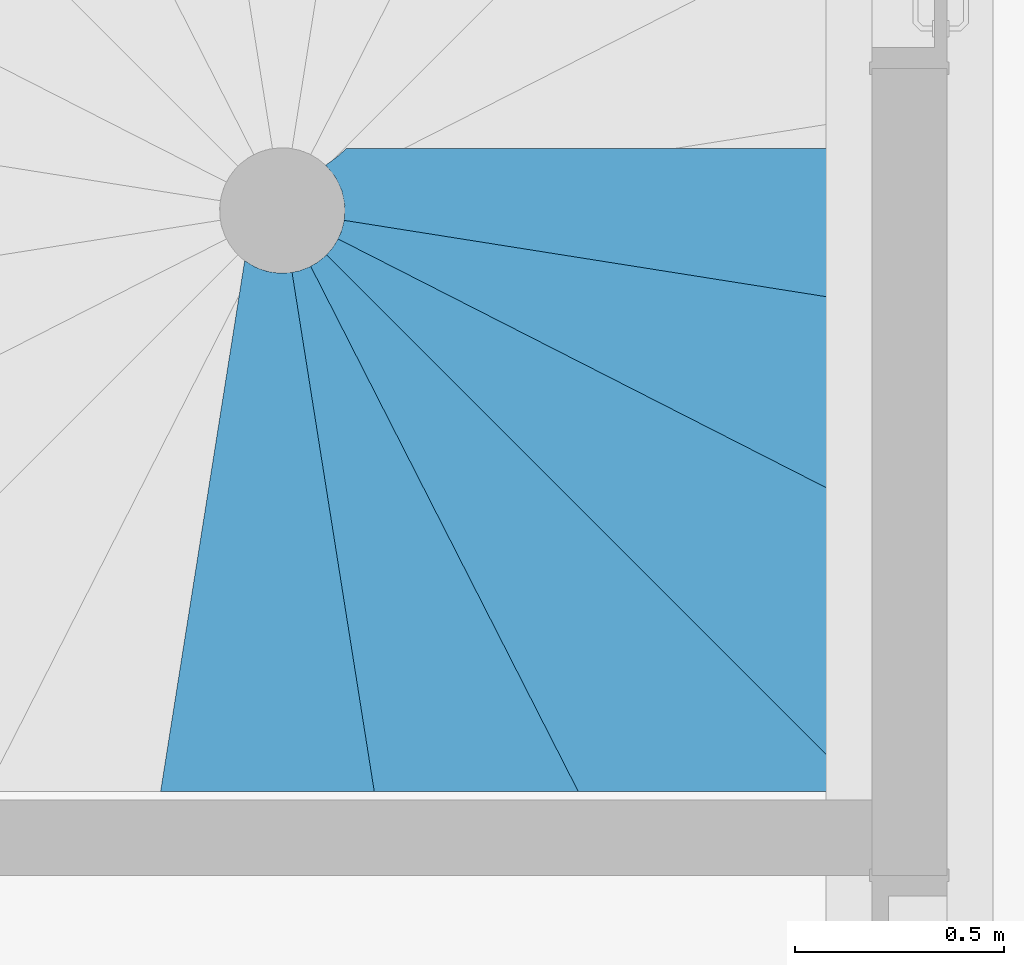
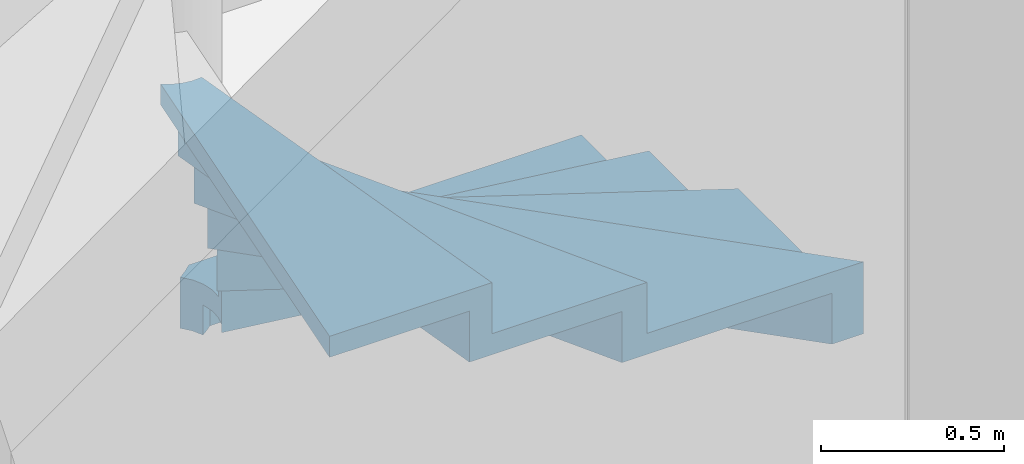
# One storey, part 18 of 29: 1 stair, 1 element without a shape of its own.
"""IFC2X3 building model written with IfcOpenShell, lengths in centimetres."""

from ifc_helpers import new_model, entity, si_unit, converted_unit, derived_unit, direction, frame, origin, place, context, subcontext, project, spatial, faceted_brep, material, element, aggregate, save


model = new_model("IFC2X3")

# Units and contexts
model_context = context("Model", 3, precision=0.001, world=origin(), true_north=direction((6.12303176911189e-17, 1.0)))
body_context = subcontext(model_context, "Body", "Model", "MODEL_VIEW")
ifc_project = project(units=[si_unit("LENGTHUNIT", "METRE", prefix="CENTI"), si_unit("AREAUNIT", "SQUARE_METRE"), si_unit("VOLUMEUNIT", "CUBIC_METRE"), converted_unit("PLANEANGLEUNIT", "DEGREE", entity("IfcRatioMeasure", 0.0174532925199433), si_unit("PLANEANGLEUNIT", "RADIAN"), dimensions=[0, 0, 0, 0, 0, 0, 0]), si_unit("MASSUNIT", "GRAM", prefix="KILO"), derived_unit("MASSDENSITYUNIT", [(si_unit("MASSUNIT", "GRAM", prefix="KILO"), 1), (si_unit("LENGTHUNIT", "METRE"), -3)]), si_unit("TIMEUNIT", "SECOND"), si_unit("FREQUENCYUNIT", "HERTZ"), si_unit("THERMODYNAMICTEMPERATUREUNIT", "DEGREE_CELSIUS"), derived_unit("THERMALTRANSMITTANCEUNIT", [(si_unit("MASSUNIT", "GRAM", prefix="KILO"), 1), (si_unit("THERMODYNAMICTEMPERATUREUNIT", "KELVIN"), -1), (si_unit("TIMEUNIT", "SECOND"), -3)]), derived_unit("VOLUMETRICFLOWRATEUNIT", [(si_unit("LENGTHUNIT", "METRE"), 3), (si_unit("TIMEUNIT", "SECOND"), -1)]), si_unit("ELECTRICCURRENTUNIT", "AMPERE"), si_unit("ELECTRICVOLTAGEUNIT", "VOLT"), si_unit("POWERUNIT", "WATT"), si_unit("FORCEUNIT", "NEWTON"), si_unit("ILLUMINANCEUNIT", "LUX"), si_unit("LUMINOUSFLUXUNIT", "LUMEN"), si_unit("LUMINOUSINTENSITYUNIT", "CANDELA"), derived_unit("USERDEFINED", [(si_unit("MASSUNIT", "GRAM", prefix="KILO"), -1), (si_unit("LENGTHUNIT", "METRE"), -2), (si_unit("TIMEUNIT", "SECOND"), 3), (si_unit("LUMINOUSFLUXUNIT", "LUMEN"), 1)]), derived_unit("LINEARVELOCITYUNIT", [(si_unit("LENGTHUNIT", "METRE"), 1), (si_unit("TIMEUNIT", "SECOND"), -1)]), si_unit("PRESSUREUNIT", "PASCAL"), derived_unit("USERDEFINED", [(si_unit("LENGTHUNIT", "METRE"), -2), (si_unit("MASSUNIT", "GRAM", prefix="KILO"), 1), (si_unit("TIMEUNIT", "SECOND"), -2)])], contexts=[model_context])

# Site, building, storey
site_placement = place(None, origin())
site = spatial("IfcSite", under=ifc_project, at=site_placement, Name="Default", CompositionType="ELEMENT")
building_placement = place(site_placement, origin())
building = spatial("IfcBuilding", under=site, at=building_placement, Name="CAGE 03", CompositionType="ELEMENT")
storey_placement = place(building_placement, frame((0.0, 0.0, -34.0)))
storey = spatial("IfcBuildingStorey", under=building, at=storey_placement, Name="+3.66", CompositionType="ELEMENT", Elevation=-34.0000000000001)

# Stairs
stair_1_placement = place(storey_placement, frame((3784.25962531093, 4652.66066607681, 0.0)))
stair_1 = element("IfcStair", 1, at=stair_1_placement, inside=storey, Name="Escalier:Monobloc-générique", ObjectType="Escalier:Monobloc-générique", ShapeType="NOTDEFINED")
ifc_material = material(Name="Béton, C25/30")
stair_2_placement = place(stair_1_placement, origin())
stair_2 = element("IfcStair", 2, at=stair_2_placement, material=ifc_material, Name="Escalier:Monobloc-générique", ObjectType="Escalier:Monobloc-générique", ShapeType="NOTDEFINED", context=body_context, shape_type="Brep", body=[
    faceted_brep([(43.9153693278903, 136.614973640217, 17.0), (42.9146862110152, 133.141197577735, 17.0), (41.1119760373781, 130.007713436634, 17.0), (168.10619483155, 109.893805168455, 17.0), (168.10619483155, 153.80834830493, 17.0), (44.4369041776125, 153.80834830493, 17.0), (42.0514615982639, 151.706272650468, 17.0), (39.4846993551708, 149.829895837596, 17.0), (41.7743085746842, 147.032365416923, 17.0), (43.3281263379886, 143.768297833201, 17.0), (44.0559035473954, 140.227277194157, 17.0), (41.7743085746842, 147.032365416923, 10.0), (39.4846993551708, 149.829895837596, 10.0), (42.0514615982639, 151.706272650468, 10.0), (44.4369041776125, 153.80834830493, 10.0), (168.10619483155, 153.80834830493, 10.0), (168.10619483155, 109.893805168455, 10.0), (41.1119760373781, 130.007713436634, 10.0), (42.9146862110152, 133.141197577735, 10.0), (43.9153693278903, 136.614973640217, 10.0), (44.0559035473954, 140.227277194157, 10.0), (43.3281263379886, 143.768297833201, 10.0)], [[[0, 1, 2, 3, 4, 5, 6, 7, 8, 9, 10]], [[11, 12, 13, 14, 15, 16, 17, 18, 19, 20, 21]], [[8, 7, 12, 11]], [[9, 8, 11, 21]], [[20, 10, 9, 21]], [[17, 2, 1, 18]], [[18, 1, 0, 19]], [[0, 10, 20, 19]], [[4, 3, 16, 15]], [[5, 4, 15, 14]], [[14, 13, 6, 5]], [[12, 7, 6, 13]], [[3, 2, 17, 16]]]),
    faceted_brep([(37.7473271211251, 126.73905253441, 34.0), (168.10619483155, 60.3178918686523, 34.0), (168.10619483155, 116.98106104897, 34.0), (43.9209784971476, 136.65006703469, 34.0), (43.1593776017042, 133.755187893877, 34.0), (41.8381251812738, 131.069177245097, 34.0), (40.0098385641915, 128.699002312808, 34.0), (43.1593776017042, 133.755187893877, 27.0), (43.9209784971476, 136.65006703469, 27.0), (168.10619483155, 116.981061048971, 27.0), (168.10619483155, 60.3178918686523, 27.0), (37.7473271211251, 126.73905253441, 27.0), (40.0098385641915, 128.699002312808, 27.0), (41.8381251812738, 131.069177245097, 27.0)], [[[0, 1, 2, 3, 4, 5, 6]], [[7, 8, 9, 10, 11, 12, 13]], [[8, 7, 4, 3]], [[4, 7, 13, 5]], [[11, 0, 6, 12]], [[13, 12, 6, 5]], [[2, 1, 10, 9]], [[3, 2, 9, 8]], [[1, 0, 11, 10]]]),
    faceted_brep([(36.2927429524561, 125.83362137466, 51.0), (33.5346017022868, 124.668593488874, 51.0), (158.203195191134, 0.0, 51.0), (168.10619483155, 0.0, 51.0), (168.10619483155, 68.1741755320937, 51.0), (42.4705697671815, 132.188723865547, 51.0), (40.8515447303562, 129.670114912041, 51.0), (38.7645519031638, 127.52323483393, 51.0), (168.10619483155, 0.0, 44.0), (158.203195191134, 0.0, 44.0), (33.5346017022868, 124.668593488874, 44.0), (36.2927429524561, 125.83362137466, 44.0), (38.7645519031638, 127.52323483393, 44.0), (40.8515447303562, 129.670114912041, 44.0), (42.4705697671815, 132.188723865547, 44.0), (168.10619483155, 68.1741755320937, 44.0)], [[[0, 1, 2, 3, 4, 5, 6, 7]], [[8, 9, 10, 11, 12, 13, 14, 15]], [[3, 2, 9, 8]], [[14, 13, 6, 5]], [[7, 6, 13, 12]], [[10, 1, 0, 11]], [[0, 7, 12, 11]], [[2, 1, 10, 9]], [[4, 3, 8, 15]], [[5, 4, 15, 14]]]),
    faceted_brep([(31.8716194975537, 124.257122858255, 68.0), (28.888484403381, 124.001580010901, 68.0), (92.0704451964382, 0.0, 68.0), (168.102690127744, 0.0, 68.0), (39.7110440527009, 128.391646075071, 68.0), (37.3928878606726, 126.496771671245, 68.0), (34.7445751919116, 125.100047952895, 68.0), (168.102690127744, 0.0, 61.0), (92.0704451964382, 0.0, 61.0), (28.888484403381, 124.001580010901, 61.0), (31.8716194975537, 124.257122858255, 61.0), (34.7445751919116, 125.100047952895, 61.0), (37.3928878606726, 126.496771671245, 61.0), (39.7110440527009, 128.391646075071, 61.0)], [[[0, 1, 2, 3, 4, 5, 6]], [[7, 8, 9, 10, 11, 12, 13]], [[3, 2, 8, 7]], [[13, 12, 5, 4]], [[6, 5, 12, 11]], [[9, 1, 0, 10]], [[0, 6, 11, 10]], [[2, 1, 9, 8]], [[4, 3, 7, 13]]]),
    faceted_brep([(27.1800267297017, 124.124184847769, 85.0), (24.2640116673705, 124.803054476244, 85.0), (44.0308736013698, 0.0, 85.0), (99.9267288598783, 0.0, 85.0), (35.9132708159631, 125.633485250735, 85.0), (33.1230412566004, 124.547839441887, 85.0), (30.1727803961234, 124.037968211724, 85.0), (99.9267288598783, 0.0, 78.0), (44.0308736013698, 0.0, 78.0), (24.2640116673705, 124.803054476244, 78.0), (27.1800267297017, 124.124184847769, 78.0), (30.1727803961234, 124.037968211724, 78.0), (33.1230412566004, 124.547839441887, 78.0), (35.9132708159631, 125.633485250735, 78.0)], [[[0, 1, 2, 3, 4, 5, 6]], [[7, 8, 9, 10, 11, 12, 13]], [[13, 12, 5, 4]], [[6, 5, 12, 11]], [[9, 1, 0, 10]], [[0, 6, 11, 10]], [[3, 2, 8, 7]], [[2, 1, 9, 8]], [[4, 3, 7, 13]]]),
    faceted_brep([(0.0, 0.0, 102.0), (51.1181294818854, 0.0, 102.0), (31.4492949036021, 124.184134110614, 102.0), (28.4602266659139, 124.013915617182, 102.0), (25.4968923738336, 124.440709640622, 102.0), (22.6773447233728, 125.447513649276, 102.0), (20.1139082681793, 126.994218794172, 102.0), (51.1181294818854, 0.0, 95.0), (0.0, 0.0, 95.0), (20.1139082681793, 126.994218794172, 95.0), (22.6773447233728, 125.447513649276, 95.0), (25.4968923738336, 124.440709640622, 95.0), (28.4602266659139, 124.013915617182, 95.0), (31.4492949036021, 124.184134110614, 95.0)], [[[0, 1, 2, 3, 4, 5, 6]], [[7, 8, 9, 10, 11, 12, 13]], [[13, 12, 3, 2]], [[4, 3, 12, 11]], [[9, 6, 5, 10]], [[10, 5, 4, 11]], [[1, 0, 8, 7]], [[2, 1, 7, 13]], [[0, 6, 9, 8]]]),
    faceted_brep([(42.0514615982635, 151.706272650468, 0.0), (39.4846993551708, 149.829895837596, 0.0), (39.4846993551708, 149.829895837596, 10.0), (42.0514615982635, 151.706272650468, 10.0), (44.4369041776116, 153.80834830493, 10.0), (44.436904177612, 153.80834830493, 0.0), (41.7253668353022, 147.109038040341, 0.0), (45.8075032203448, 150.319821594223, 0.0), (46.4693102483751, 148.566716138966, 0.0), (45.2340865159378, 145.319285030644, 0.0), (43.269250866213, 143.940429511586, 0.0), (45.1303924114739, 152.06720397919, 0.0), (168.10619483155, 153.808348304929, 0.0), (47.1167740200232, 146.80834830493, 0.0), (168.10619483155, 146.808348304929, 0.0), (45.2340865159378, 145.319285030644, 10.0), (43.2692508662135, 143.940429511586, 10.0), (47.1167740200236, 146.80834830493, 10.0), (45.8075032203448, 150.319821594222, 10.0), (41.7253668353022, 147.109038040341, 10.0), (45.1303924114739, 152.067203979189, 10.0), (46.4693102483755, 148.566716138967, 10.0), (168.10619483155, 153.808348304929, 10.0), (168.10619483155, 146.808348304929, 10.0)], [[[0, 1, 2, 3]], [[4, 5, 0, 3]], [[6, 0, 7]], [[6, 1, 0]], [[7, 8, 6]], [[6, 8, 9]], [[9, 10, 6]], [[7, 0, 11]], [[5, 11, 0]], [[11, 5, 12]], [[7, 11, 12]], [[8, 12, 13]], [[12, 8, 7]], [[14, 13, 12]], [[13, 9, 8]], [[15, 16, 10, 9]], [[15, 9, 13, 17]], [[18, 3, 19]], [[20, 3, 18]], [[19, 21, 18]], [[20, 18, 22]], [[21, 22, 18]], [[4, 20, 22]], [[22, 21, 17]], [[17, 23, 22]], [[3, 20, 4]], [[3, 2, 19]], [[15, 21, 19]], [[19, 16, 15]], [[21, 15, 17]], [[1, 6, 19, 2]], [[10, 16, 19, 6]], [[23, 14, 12, 22]], [[5, 4, 22, 12]], [[17, 13, 14, 23]]]),
    faceted_brep([(42.9216170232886, 133.157559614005, 27.0), (43.9209784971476, 136.65006703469, 27.0), (43.9209784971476, 136.65006703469, 17.0), (42.9216170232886, 133.157559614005, 17.0), (41.1119760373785, 130.007713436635, 17.0), (41.1119760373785, 130.007713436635, 27.0), (168.10619483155, 109.893805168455, 27.0), (168.10619483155, 109.893805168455, 17.0), (168.10619483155, 116.981061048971, 17.0), (168.10619483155, 116.981061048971, 27.0)], [[[0, 1, 2, 3]], [[4, 5, 0, 3]], [[6, 7, 8, 9]], [[2, 1, 9, 8]], [[4, 3, 2, 8, 7]], [[5, 4, 7, 6]], [[0, 5, 6, 9, 1]]]),
    faceted_brep([(42.4705697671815, 132.188723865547, 44.0), (42.4705697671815, 132.188723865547, 34.0), (40.4413311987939, 129.175811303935, 34.0), (40.4413311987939, 129.175811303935, 44.0), (37.7473271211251, 126.73905253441, 34.0), (37.7473271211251, 126.73905253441, 44.0), (168.10619483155, 60.3178918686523, 44.0), (168.10619483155, 60.3178918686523, 34.0), (168.10619483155, 68.1741755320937, 34.0), (168.10619483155, 68.1741755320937, 44.0)], [[[0, 1, 2, 3]], [[4, 5, 3, 2]], [[6, 7, 8, 9]], [[1, 0, 9, 8]], [[4, 2, 1, 8, 7]], [[5, 4, 7, 6]], [[3, 5, 6, 9, 0]]]),
    faceted_brep([(36.8499004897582, 126.153404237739, 51.0), (36.8499004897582, 126.153404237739, 61.0), (39.7110440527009, 128.391646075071, 61.0), (39.7110440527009, 128.391646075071, 51.0), (33.5346017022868, 124.668593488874, 51.0), (33.5346017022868, 124.668593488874, 61.0), (168.102690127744, 0.0, 61.0), (158.203195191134, 0.0, 61.0), (158.203195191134, 0.0, 51.0), (168.102690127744, 0.0, 51.0)], [[[0, 1, 2, 3]], [[4, 5, 1, 0]], [[6, 7, 8, 9]], [[3, 2, 6, 9]], [[4, 0, 3, 9, 8]], [[5, 4, 8, 7]], [[1, 5, 7, 6, 2]]]),
    faceted_brep([(35.9132708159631, 125.633485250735, 68.0), (32.5004124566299, 124.389069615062, 68.0), (32.5004124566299, 124.389069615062, 78.0), (35.9132708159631, 125.633485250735, 78.0), (28.8884844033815, 124.001580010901, 68.0), (28.8884844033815, 124.001580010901, 78.0), (99.9267288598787, 0.0, 78.0), (92.0704451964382, 0.0, 78.0), (92.0704451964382, 0.0, 68.0), (99.9267288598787, 0.0, 68.0)], [[[0, 1, 2, 3]], [[4, 5, 2, 1]], [[6, 7, 8, 9]], [[0, 3, 6, 9]], [[4, 1, 0, 9, 8]], [[5, 4, 8, 7]], [[2, 5, 7, 6, 3]]]),
    faceted_brep([(31.4492949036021, 124.184134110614, 85.0), (27.8189032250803, 124.055339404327, 85.0), (27.8189032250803, 124.055339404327, 95.0), (31.4492949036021, 124.184134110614, 95.0), (24.2640116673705, 124.803054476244, 85.0), (24.2640116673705, 124.803054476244, 95.0), (51.1181294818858, 0.0, 95.0), (44.0308736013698, 0.0, 95.0), (44.0308736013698, 0.0, 85.0), (51.1181294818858, 0.0, 85.0)], [[[0, 1, 2, 3]], [[4, 5, 2, 1]], [[6, 7, 8, 9]], [[0, 3, 6, 9]], [[4, 1, 0, 9, 8]], [[5, 4, 8, 7]], [[2, 5, 7, 6, 3]]]),
])
aggregate(stair_1, [stair_2])

save(model, "model.ifc")
